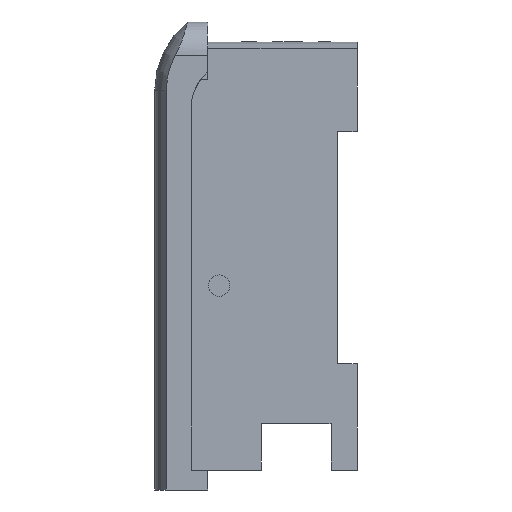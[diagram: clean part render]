
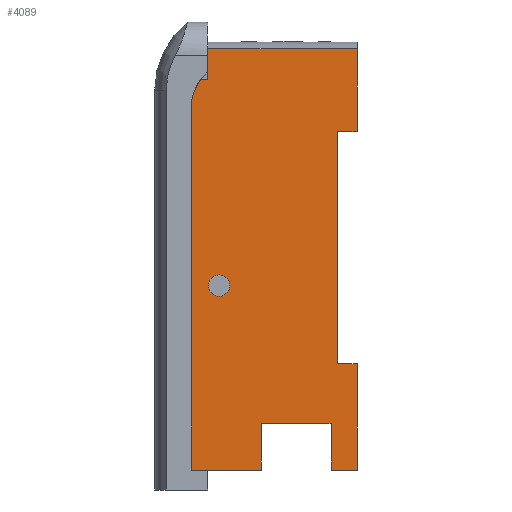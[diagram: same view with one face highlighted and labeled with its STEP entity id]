
A CAD part, left-side view. The second image highlights one B-rep face of the part: STEP entity #4089.
In plain terms, the highlighted planar face has unit normal (-1, 0, 0).
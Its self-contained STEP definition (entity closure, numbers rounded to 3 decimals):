
#1815 = DIRECTION ( 'NONE',  ( 0., 1., 0. ) ) ;
#1816 = VECTOR ( 'NONE', #1815, 1000. ) ;
#1817 = CARTESIAN_POINT ( 'NONE',  ( -5., 19.5, -5.639 ) ) ;
#1818 = LINE ( 'NONE', #1817, #1816 ) ;
#1819 = CARTESIAN_POINT ( 'NONE',  ( -5., 20.583, -5.639 ) ) ;
#1962 = CARTESIAN_POINT ( 'NONE',  ( -5., 19.5, -5.639 ) ) ;
#2057 = DIRECTION ( 'NONE',  ( 0., 0., 1. ) ) ;
#2058 = DIRECTION ( 'NONE',  ( -1., 0., 0. ) ) ;
#2059 = CARTESIAN_POINT ( 'NONE',  ( -5., 17.8, -36.7 ) ) ;
#2060 = AXIS2_PLACEMENT_3D ( 'NONE', #2059, #2058, #2057 ) ;
#2061 = CIRCLE ( 'NONE', #2060, 1.6 ) ;
#2183 = CARTESIAN_POINT ( 'NONE',  ( -5., 17.8, -35.1 ) ) ;
#2184 = CARTESIAN_POINT ( 'NONE',  ( -5., 17.8, -38.3 ) ) ;
#2474 = CARTESIAN_POINT ( 'NONE',  ( -5., -3., -1. ) ) ;
#2509 = CARTESIAN_POINT ( 'NONE',  ( -5., -3., -64.5 ) ) ;
#2510 = DIRECTION ( 'NONE',  ( 0., 0., -1. ) ) ;
#2511 = VECTOR ( 'NONE', #2510, 1000. ) ;
#2512 = CARTESIAN_POINT ( 'NONE',  ( -5., -3., 0. ) ) ;
#2513 = LINE ( 'NONE', #2512, #2511 ) ;
#2514 = CARTESIAN_POINT ( 'NONE',  ( -5., 22., -64.5 ) ) ;
#2558 = CARTESIAN_POINT ( 'NONE',  ( -5., -3., -13.5 ) ) ;
#2565 = CARTESIAN_POINT ( 'NONE',  ( -5., 19.5, -1. ) ) ;
#2566 = DIRECTION ( 'NONE',  ( 0., 0., -1. ) ) ;
#2567 = VECTOR ( 'NONE', #2566, 1000. ) ;
#2568 = CARTESIAN_POINT ( 'NONE',  ( -5., 19.5, 0. ) ) ;
#2569 = LINE ( 'NONE', #2568, #2567 ) ;
#2586 = DIRECTION ( 'NONE',  ( 0., 0., 1. ) ) ;
#2587 = DIRECTION ( 'NONE',  ( -1., 0., 0. ) ) ;
#2588 = CARTESIAN_POINT ( 'NONE',  ( -5., 15., -9.862 ) ) ;
#2589 = AXIS2_PLACEMENT_3D ( 'NONE', #2588, #2587, #2586 ) ;
#2590 = CIRCLE ( 'NONE', #2589, 7. ) ;
#2616 = CARTESIAN_POINT ( 'NONE',  ( -5., 22., -9.862 ) ) ;
#2617 = DIRECTION ( 'NONE',  ( 0., 0., 1. ) ) ;
#2618 = VECTOR ( 'NONE', #2617, 1000. ) ;
#2619 = CARTESIAN_POINT ( 'NONE',  ( -5., 22., 0. ) ) ;
#2620 = LINE ( 'NONE', #2619, #2618 ) ;
#2621 = CARTESIAN_POINT ( 'NONE',  ( -5., 0.95, -64.5 ) ) ;
#2622 = DIRECTION ( 'NONE',  ( 0., 1., 0. ) ) ;
#2623 = VECTOR ( 'NONE', #2622, 1000. ) ;
#2624 = CARTESIAN_POINT ( 'NONE',  ( -5., -3., -64.5 ) ) ;
#2625 = LINE ( 'NONE', #2624, #2623 ) ;
#2658 = DIRECTION ( 'NONE',  ( 0., 0., -1. ) ) ;
#2659 = VECTOR ( 'NONE', #2658, 1000. ) ;
#2660 = CARTESIAN_POINT ( 'NONE',  ( -5., -3., 0. ) ) ;
#2661 = LINE ( 'NONE', #2660, #2659 ) ;
#2662 = DIRECTION ( 'NONE',  ( 0., 0., -1. ) ) ;
#2663 = VECTOR ( 'NONE', #2662, 1000. ) ;
#2664 = CARTESIAN_POINT ( 'NONE',  ( -5., 0.95, -64.5 ) ) ;
#2665 = LINE ( 'NONE', #2664, #2663 ) ;
#2666 = CARTESIAN_POINT ( 'NONE',  ( -5., 0.95, -57.5 ) ) ;
#2873 = CARTESIAN_POINT ( 'NONE',  ( -5., 11.45, -57.5 ) ) ;
#2874 = CARTESIAN_POINT ( 'NONE',  ( -5., 11.45, -64.5 ) ) ;
#2875 = DIRECTION ( 'NONE',  ( 0., 1., 0. ) ) ;
#2876 = VECTOR ( 'NONE', #2875, 1000. ) ;
#2877 = CARTESIAN_POINT ( 'NONE',  ( -5., -3., -64.5 ) ) ;
#2878 = LINE ( 'NONE', #2877, #2876 ) ;
#2879 = CARTESIAN_POINT ( 'NONE',  ( -5., 0., -48.5 ) ) ;
#2880 = CARTESIAN_POINT ( 'NONE',  ( -5., -3., -48.5 ) ) ;
#2881 = DIRECTION ( 'NONE',  ( 0., -1., 0. ) ) ;
#2882 = VECTOR ( 'NONE', #2881, 1000. ) ;
#2883 = CARTESIAN_POINT ( 'NONE',  ( -5., -3., -13.5 ) ) ;
#2884 = LINE ( 'NONE', #2883, #2882 ) ;
#2885 = DIRECTION ( 'NONE',  ( 0., 1., 0. ) ) ;
#2886 = VECTOR ( 'NONE', #2885, 1000. ) ;
#2887 = CARTESIAN_POINT ( 'NONE',  ( -5., -3., -48.5 ) ) ;
#2888 = LINE ( 'NONE', #2887, #2886 ) ;
#2895 = DIRECTION ( 'NONE',  ( 0., -1., 0. ) ) ;
#2896 = VECTOR ( 'NONE', #2895, 1000. ) ;
#2897 = CARTESIAN_POINT ( 'NONE',  ( -5., 92.43, -1. ) ) ;
#2898 = LINE ( 'NONE', #2897, #2896 ) ;
#2899 = CARTESIAN_POINT ( 'NONE',  ( -5., 0., -13.5 ) ) ;
#2900 = DIRECTION ( 'NONE',  ( 0., 0., 1. ) ) ;
#2901 = VECTOR ( 'NONE', #2900, 1000. ) ;
#2902 = CARTESIAN_POINT ( 'NONE',  ( -5., 0., -13.5 ) ) ;
#2903 = LINE ( 'NONE', #2902, #2901 ) ;
#2905 = CARTESIAN_POINT ( 'NONE',  ( -5., 22., 0. ) ) ;
#2906 = AXIS2_PLACEMENT_3D ( 'NONE', #2905, #2970, #2969 ) ;
#2907 = PLANE ( 'NONE',  #2906 ) ;
#2908 = FACE_OUTER_BOUND ( 'NONE', #4094, .T. ) ;
#2909 = FACE_BOUND ( 'NONE', #4090, .T. ) ;
#2920 = DIRECTION ( 'NONE',  ( 0., -1., 0. ) ) ;
#2921 = VECTOR ( 'NONE', #2920, 1000. ) ;
#2922 = CARTESIAN_POINT ( 'NONE',  ( -5., 0.95, -57.5 ) ) ;
#2923 = LINE ( 'NONE', #2922, #2921 ) ;
#2924 = DIRECTION ( 'NONE',  ( 0., 0., 1. ) ) ;
#2925 = VECTOR ( 'NONE', #2924, 1000. ) ;
#2926 = CARTESIAN_POINT ( 'NONE',  ( -5., 11.45, -64.5 ) ) ;
#2927 = LINE ( 'NONE', #2926, #2925 ) ;
#2964 = DIRECTION ( 'NONE',  ( 0., 0., 1. ) ) ;
#2965 = DIRECTION ( 'NONE',  ( -1., 0., 0. ) ) ;
#2966 = CARTESIAN_POINT ( 'NONE',  ( -5., 17.8, -36.7 ) ) ;
#2967 = AXIS2_PLACEMENT_3D ( 'NONE', #2966, #2965, #2964 ) ;
#2968 = CIRCLE ( 'NONE', #2967, 1.6 ) ;
#2969 = DIRECTION ( 'NONE',  ( 0., 0., 1. ) ) ;
#2970 = DIRECTION ( 'NONE',  ( -1., 0., 0. ) ) ;
#3557 = VERTEX_POINT ( 'NONE', #1819 ) ;
#3559 = EDGE_CURVE ( 'NONE', #3630, #3557, #1818, .T. ) ;
#3630 = VERTEX_POINT ( 'NONE', #1962 ) ;
#3677 = EDGE_CURVE ( 'NONE', #3750, #3752, #2061, .T. ) ;
#3750 = VERTEX_POINT ( 'NONE', #2184 ) ;
#3752 = VERTEX_POINT ( 'NONE', #2183 ) ;
#3888 = VERTEX_POINT ( 'NONE', #2474 ) ;
#3947 = VERTEX_POINT ( 'NONE', #2514 ) ;
#3948 = EDGE_CURVE ( 'NONE', #3888, #3963, #2513, .T. ) ;
#3950 = VERTEX_POINT ( 'NONE', #2509 ) ;
#3958 = EDGE_CURVE ( 'NONE', #3959, #3630, #2569, .T. ) ;
#3959 = VERTEX_POINT ( 'NONE', #2565 ) ;
#3963 = VERTEX_POINT ( 'NONE', #2558 ) ;
#3983 = EDGE_CURVE ( 'NONE', #3557, #4000, #2590, .T. ) ;
#3996 = EDGE_CURVE ( 'NONE', #3950, #3997, #2625, .T. ) ;
#3997 = VERTEX_POINT ( 'NONE', #2621 ) ;
#3999 = EDGE_CURVE ( 'NONE', #3947, #4000, #2620, .T. ) ;
#4000 = VERTEX_POINT ( 'NONE', #2616 ) ;
#4007 = ORIENTED_EDGE ( 'NONE', *, *, #3559, .T. ) ;
#4008 = ORIENTED_EDGE ( 'NONE', *, *, #3983, .T. ) ;
#4009 = VERTEX_POINT ( 'NONE', #2666 ) ;
#4010 = ORIENTED_EDGE ( 'NONE', *, *, #4011, .T. ) ;
#4011 = EDGE_CURVE ( 'NONE', #4009, #3997, #2665, .T. ) ;
#4012 = ORIENTED_EDGE ( 'NONE', *, *, #3996, .F. ) ;
#4013 = ORIENTED_EDGE ( 'NONE', *, *, #4014, .F. ) ;
#4014 = EDGE_CURVE ( 'NONE', #4066, #3950, #2661, .T. ) ;
#4053 = ORIENTED_EDGE ( 'NONE', *, *, #4054, .T. ) ;
#4054 = EDGE_CURVE ( 'NONE', #4067, #4055, #2903, .T. ) ;
#4055 = VERTEX_POINT ( 'NONE', #2899 ) ;
#4056 = EDGE_CURVE ( 'NONE', #3959, #3888, #2898, .T. ) ;
#4057 = ORIENTED_EDGE ( 'NONE', *, *, #3958, .T. ) ;
#4060 = ORIENTED_EDGE ( 'NONE', *, *, #4061, .T. ) ;
#4061 = EDGE_CURVE ( 'NONE', #4066, #4067, #2888, .T. ) ;
#4062 = ORIENTED_EDGE ( 'NONE', *, *, #4063, .T. ) ;
#4063 = EDGE_CURVE ( 'NONE', #4055, #3963, #2884, .T. ) ;
#4064 = ORIENTED_EDGE ( 'NONE', *, *, #3948, .F. ) ;
#4065 = ORIENTED_EDGE ( 'NONE', *, *, #4056, .F. ) ;
#4066 = VERTEX_POINT ( 'NONE', #2880 ) ;
#4067 = VERTEX_POINT ( 'NONE', #2879 ) ;
#4069 = ORIENTED_EDGE ( 'NONE', *, *, #3999, .F. ) ;
#4070 = ORIENTED_EDGE ( 'NONE', *, *, #4071, .F. ) ;
#4071 = EDGE_CURVE ( 'NONE', #4072, #3947, #2878, .T. ) ;
#4072 = VERTEX_POINT ( 'NONE', #2874 ) ;
#4073 = VERTEX_POINT ( 'NONE', #2873 ) ;
#4078 = ORIENTED_EDGE ( 'NONE', *, *, #4079, .T. ) ;
#4079 = EDGE_CURVE ( 'NONE', #4072, #4073, #2927, .T. ) ;
#4080 = ORIENTED_EDGE ( 'NONE', *, *, #4081, .T. ) ;
#4081 = EDGE_CURVE ( 'NONE', #4073, #4009, #2923, .T. ) ;
#4089 = ADVANCED_FACE ( 'NONE', ( #2909, #2908 ), #2907, .T. ) ;
#4090 = EDGE_LOOP ( 'NONE', ( #4091, #4093 ) ) ;
#4091 = ORIENTED_EDGE ( 'NONE', *, *, #4092, .F. ) ;
#4092 = EDGE_CURVE ( 'NONE', #3752, #3750, #2968, .T. ) ;
#4093 = ORIENTED_EDGE ( 'NONE', *, *, #3677, .F. ) ;
#4094 = EDGE_LOOP ( 'NONE', ( #4007, #4008, #4069, #4070, #4078, #4080, #4010, #4012, #4013, #4060, #4053, #4062, #4064, #4065, #4057 ) ) ;
